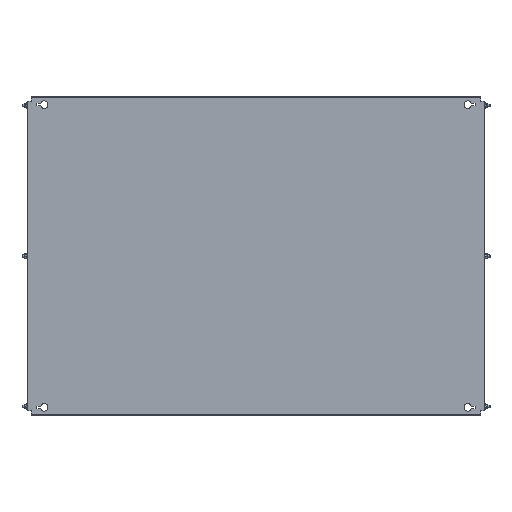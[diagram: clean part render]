
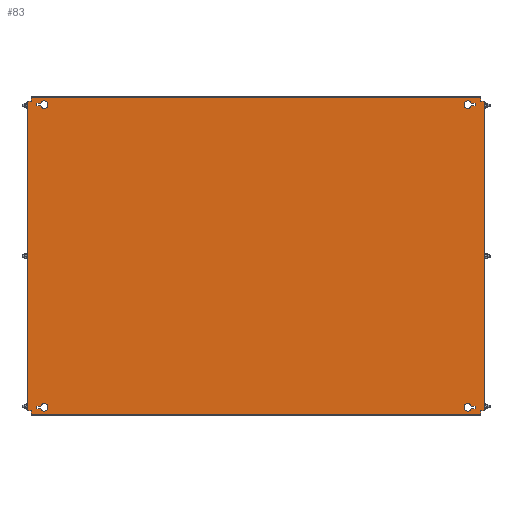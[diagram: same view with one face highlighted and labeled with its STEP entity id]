
A CAD part, top view. The second image highlights one B-rep face of the part: STEP entity #83.
In plain terms, the highlighted planar face has unit normal (0, 0, 1).
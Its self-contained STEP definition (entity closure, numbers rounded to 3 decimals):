
#83 = ADVANCED_FACE('',(#84,#119,#154,#316,#351),#386,.T.);
#84 = FACE_BOUND('',#85,.T.);
#85 = EDGE_LOOP('',(#86,#96,#104,#112));
#86 = ORIENTED_EDGE('',*,*,#87,.T.);
#87 = EDGE_CURVE('',#88,#90,#92,.T.);
#88 = VERTEX_POINT('',#89);
#89 = CARTESIAN_POINT('',(518.393,367.75,2.5));
#90 = VERTEX_POINT('',#91);
#91 = CARTESIAN_POINT('',(528.,367.75,2.5));
#92 = LINE('',#93,#94);
#93 = CARTESIAN_POINT('',(527.,367.75,2.5));
#94 = VECTOR('',#95,1.);
#95 = DIRECTION('',(1.,0.,0.));
#96 = ORIENTED_EDGE('',*,*,#97,.T.);
#97 = EDGE_CURVE('',#90,#98,#100,.T.);
#98 = VERTEX_POINT('',#99);
#99 = CARTESIAN_POINT('',(528.,361.25,2.5));
#100 = LINE('',#101,#102);
#101 = CARTESIAN_POINT('',(528.,367.75,2.5));
#102 = VECTOR('',#103,1.);
#103 = DIRECTION('',(0.,-1.,0.));
#104 = ORIENTED_EDGE('',*,*,#105,.T.);
#105 = EDGE_CURVE('',#98,#106,#108,.T.);
#106 = VERTEX_POINT('',#107);
#107 = CARTESIAN_POINT('',(518.393,361.25,2.5));
#108 = LINE('',#109,#110);
#109 = CARTESIAN_POINT('',(527.,361.25,2.5));
#110 = VECTOR('',#111,1.);
#111 = DIRECTION('',(-1.,0.,0.));
#112 = ORIENTED_EDGE('',*,*,#113,.T.);
#113 = EDGE_CURVE('',#106,#88,#114,.T.);
#114 = CIRCLE('',#115,9.);
#115 = AXIS2_PLACEMENT_3D('',#116,#117,#118);
#116 = CARTESIAN_POINT('',(510.,364.5,2.5));
#117 = DIRECTION('',(0.,0.,-1.));
#118 = DIRECTION('',(1.,0.,0.));
#119 = FACE_BOUND('',#120,.T.);
#120 = EDGE_LOOP('',(#121,#131,#139,#147));
#121 = ORIENTED_EDGE('',*,*,#122,.T.);
#122 = EDGE_CURVE('',#123,#125,#127,.T.);
#123 = VERTEX_POINT('',#124);
#124 = CARTESIAN_POINT('',(-518.393,-367.75,2.5));
#125 = VERTEX_POINT('',#126);
#126 = CARTESIAN_POINT('',(-528.,-367.75,2.5));
#127 = LINE('',#128,#129);
#128 = CARTESIAN_POINT('',(-527.,-367.75,2.5));
#129 = VECTOR('',#130,1.);
#130 = DIRECTION('',(-1.,0.,0.));
#131 = ORIENTED_EDGE('',*,*,#132,.T.);
#132 = EDGE_CURVE('',#125,#133,#135,.T.);
#133 = VERTEX_POINT('',#134);
#134 = CARTESIAN_POINT('',(-528.,-361.25,2.5));
#135 = LINE('',#136,#137);
#136 = CARTESIAN_POINT('',(-528.,-367.75,2.5));
#137 = VECTOR('',#138,1.);
#138 = DIRECTION('',(0.,1.,0.));
#139 = ORIENTED_EDGE('',*,*,#140,.T.);
#140 = EDGE_CURVE('',#133,#141,#143,.T.);
#141 = VERTEX_POINT('',#142);
#142 = CARTESIAN_POINT('',(-518.393,-361.25,2.5));
#143 = LINE('',#144,#145);
#144 = CARTESIAN_POINT('',(-527.,-361.25,2.5));
#145 = VECTOR('',#146,1.);
#146 = DIRECTION('',(1.,-0.,-0.));
#147 = ORIENTED_EDGE('',*,*,#148,.T.);
#148 = EDGE_CURVE('',#141,#123,#149,.T.);
#149 = CIRCLE('',#150,9.);
#150 = AXIS2_PLACEMENT_3D('',#151,#152,#153);
#151 = CARTESIAN_POINT('',(-510.,-364.5,2.5));
#152 = DIRECTION('',(0.,0.,-1.));
#153 = DIRECTION('',(-1.,0.,0.));
#154 = FACE_BOUND('',#155,.T.);
#155 = EDGE_LOOP('',(#156,#166,#174,#182,#190,#198,#206,#214,#222,#230,
    #238,#246,#254,#262,#270,#278,#286,#294,#302,#310));
#156 = ORIENTED_EDGE('',*,*,#157,.F.);
#157 = EDGE_CURVE('',#158,#160,#162,.T.);
#158 = VERTEX_POINT('',#159);
#159 = CARTESIAN_POINT('',(-546.9,372.5,2.5));
#160 = VERTEX_POINT('',#161);
#161 = CARTESIAN_POINT('',(-541.5,372.5,2.5));
#162 = LINE('',#163,#164);
#163 = CARTESIAN_POINT('',(-547.5,372.5,2.5));
#164 = VECTOR('',#165,1.);
#165 = DIRECTION('',(1.,0.,-0.));
#166 = ORIENTED_EDGE('',*,*,#167,.T.);
#167 = EDGE_CURVE('',#158,#168,#170,.T.);
#168 = VERTEX_POINT('',#169);
#169 = CARTESIAN_POINT('',(-550.,372.5,2.5));
#170 = LINE('',#171,#172);
#171 = CARTESIAN_POINT('',(-546.9,372.5,2.5));
#172 = VECTOR('',#173,1.);
#173 = DIRECTION('',(-1.,0.,0.));
#174 = ORIENTED_EDGE('',*,*,#175,.F.);
#175 = EDGE_CURVE('',#176,#168,#178,.T.);
#176 = VERTEX_POINT('',#177);
#177 = CARTESIAN_POINT('',(-550.,-372.5,2.5));
#178 = LINE('',#179,#180);
#179 = CARTESIAN_POINT('',(-550.,-382.,2.5));
#180 = VECTOR('',#181,1.);
#181 = DIRECTION('',(0.,1.,-0.));
#182 = ORIENTED_EDGE('',*,*,#183,.F.);
#183 = EDGE_CURVE('',#184,#176,#186,.T.);
#184 = VERTEX_POINT('',#185);
#185 = CARTESIAN_POINT('',(-546.9,-372.5,2.5));
#186 = LINE('',#187,#188);
#187 = CARTESIAN_POINT('',(-541.5,-372.5,2.5));
#188 = VECTOR('',#189,1.);
#189 = DIRECTION('',(-1.,-0.,-0.));
#190 = ORIENTED_EDGE('',*,*,#191,.T.);
#191 = EDGE_CURVE('',#184,#192,#194,.T.);
#192 = VERTEX_POINT('',#193);
#193 = CARTESIAN_POINT('',(-541.5,-372.5,2.5));
#194 = LINE('',#195,#196);
#195 = CARTESIAN_POINT('',(-547.5,-372.5,2.5));
#196 = VECTOR('',#197,1.);
#197 = DIRECTION('',(1.,0.,-0.));
#198 = ORIENTED_EDGE('',*,*,#199,.T.);
#199 = EDGE_CURVE('',#192,#200,#202,.T.);
#200 = VERTEX_POINT('',#201);
#201 = CARTESIAN_POINT('',(-541.5,-381.4,2.5));
#202 = LINE('',#203,#204);
#203 = CARTESIAN_POINT('',(-541.5,382.,2.5));
#204 = VECTOR('',#205,1.);
#205 = DIRECTION('',(0.,-1.,0.));
#206 = ORIENTED_EDGE('',*,*,#207,.T.);
#207 = EDGE_CURVE('',#200,#208,#210,.T.);
#208 = VERTEX_POINT('',#209);
#209 = CARTESIAN_POINT('',(-541.5,-382.,2.5));
#210 = LINE('',#211,#212);
#211 = CARTESIAN_POINT('',(-541.5,-381.4,2.5));
#212 = VECTOR('',#213,1.);
#213 = DIRECTION('',(-0.,-1.,-0.));
#214 = ORIENTED_EDGE('',*,*,#215,.T.);
#215 = EDGE_CURVE('',#208,#216,#218,.T.);
#216 = VERTEX_POINT('',#217);
#217 = CARTESIAN_POINT('',(541.5,-382.,2.5));
#218 = LINE('',#219,#220);
#219 = CARTESIAN_POINT('',(541.5,-382.,2.5));
#220 = VECTOR('',#221,1.);
#221 = DIRECTION('',(1.,0.,0.));
#222 = ORIENTED_EDGE('',*,*,#223,.F.);
#223 = EDGE_CURVE('',#224,#216,#226,.T.);
#224 = VERTEX_POINT('',#225);
#225 = CARTESIAN_POINT('',(541.5,-381.4,2.5));
#226 = LINE('',#227,#228);
#227 = CARTESIAN_POINT('',(541.5,-382.,2.5));
#228 = VECTOR('',#229,1.);
#229 = DIRECTION('',(0.,-1.,0.));
#230 = ORIENTED_EDGE('',*,*,#231,.T.);
#231 = EDGE_CURVE('',#224,#232,#234,.T.);
#232 = VERTEX_POINT('',#233);
#233 = CARTESIAN_POINT('',(541.5,-372.5,2.5));
#234 = LINE('',#235,#236);
#235 = CARTESIAN_POINT('',(541.5,382.,2.5));
#236 = VECTOR('',#237,1.);
#237 = DIRECTION('',(0.,1.,-0.));
#238 = ORIENTED_EDGE('',*,*,#239,.F.);
#239 = EDGE_CURVE('',#240,#232,#242,.T.);
#240 = VERTEX_POINT('',#241);
#241 = CARTESIAN_POINT('',(546.9,-372.5,2.5));
#242 = LINE('',#243,#244);
#243 = CARTESIAN_POINT('',(547.5,-372.5,2.5));
#244 = VECTOR('',#245,1.);
#245 = DIRECTION('',(-1.,0.,-0.));
#246 = ORIENTED_EDGE('',*,*,#247,.T.);
#247 = EDGE_CURVE('',#240,#248,#250,.T.);
#248 = VERTEX_POINT('',#249);
#249 = CARTESIAN_POINT('',(550.,-372.5,2.5));
#250 = LINE('',#251,#252);
#251 = CARTESIAN_POINT('',(546.9,-372.5,2.5));
#252 = VECTOR('',#253,1.);
#253 = DIRECTION('',(1.,-0.,0.));
#254 = ORIENTED_EDGE('',*,*,#255,.F.);
#255 = EDGE_CURVE('',#256,#248,#258,.T.);
#256 = VERTEX_POINT('',#257);
#257 = CARTESIAN_POINT('',(550.,372.5,2.5));
#258 = LINE('',#259,#260);
#259 = CARTESIAN_POINT('',(550.,-382.,2.5));
#260 = VECTOR('',#261,1.);
#261 = DIRECTION('',(0.,-1.,-0.));
#262 = ORIENTED_EDGE('',*,*,#263,.F.);
#263 = EDGE_CURVE('',#264,#256,#266,.T.);
#264 = VERTEX_POINT('',#265);
#265 = CARTESIAN_POINT('',(546.9,372.5,2.5));
#266 = LINE('',#267,#268);
#267 = CARTESIAN_POINT('',(-541.5,372.5,2.5));
#268 = VECTOR('',#269,1.);
#269 = DIRECTION('',(1.,-0.,0.));
#270 = ORIENTED_EDGE('',*,*,#271,.T.);
#271 = EDGE_CURVE('',#264,#272,#274,.T.);
#272 = VERTEX_POINT('',#273);
#273 = CARTESIAN_POINT('',(541.5,372.5,2.5));
#274 = LINE('',#275,#276);
#275 = CARTESIAN_POINT('',(547.5,372.5,2.5));
#276 = VECTOR('',#277,1.);
#277 = DIRECTION('',(-1.,0.,-0.));
#278 = ORIENTED_EDGE('',*,*,#279,.T.);
#279 = EDGE_CURVE('',#272,#280,#282,.T.);
#280 = VERTEX_POINT('',#281);
#281 = CARTESIAN_POINT('',(541.5,381.4,2.5));
#282 = LINE('',#283,#284);
#283 = CARTESIAN_POINT('',(541.5,382.,2.5));
#284 = VECTOR('',#285,1.);
#285 = DIRECTION('',(0.,1.,-0.));
#286 = ORIENTED_EDGE('',*,*,#287,.T.);
#287 = EDGE_CURVE('',#280,#288,#290,.T.);
#288 = VERTEX_POINT('',#289);
#289 = CARTESIAN_POINT('',(541.5,382.,2.5));
#290 = LINE('',#291,#292);
#291 = CARTESIAN_POINT('',(541.5,381.4,2.5));
#292 = VECTOR('',#293,1.);
#293 = DIRECTION('',(-0.,1.,-0.));
#294 = ORIENTED_EDGE('',*,*,#295,.T.);
#295 = EDGE_CURVE('',#288,#296,#298,.T.);
#296 = VERTEX_POINT('',#297);
#297 = CARTESIAN_POINT('',(-541.5,382.,2.5));
#298 = LINE('',#299,#300);
#299 = CARTESIAN_POINT('',(-541.5,382.,2.5));
#300 = VECTOR('',#301,1.);
#301 = DIRECTION('',(-1.,0.,0.));
#302 = ORIENTED_EDGE('',*,*,#303,.F.);
#303 = EDGE_CURVE('',#304,#296,#306,.T.);
#304 = VERTEX_POINT('',#305);
#305 = CARTESIAN_POINT('',(-541.5,381.4,2.5));
#306 = LINE('',#307,#308);
#307 = CARTESIAN_POINT('',(-541.5,-382.,2.5));
#308 = VECTOR('',#309,1.);
#309 = DIRECTION('',(0.,1.,-0.));
#310 = ORIENTED_EDGE('',*,*,#311,.T.);
#311 = EDGE_CURVE('',#304,#160,#312,.T.);
#312 = LINE('',#313,#314);
#313 = CARTESIAN_POINT('',(-541.5,382.,2.5));
#314 = VECTOR('',#315,1.);
#315 = DIRECTION('',(0.,-1.,0.));
#316 = FACE_BOUND('',#317,.T.);
#317 = EDGE_LOOP('',(#318,#328,#336,#344));
#318 = ORIENTED_EDGE('',*,*,#319,.F.);
#319 = EDGE_CURVE('',#320,#322,#324,.T.);
#320 = VERTEX_POINT('',#321);
#321 = CARTESIAN_POINT('',(528.,-361.25,2.5));
#322 = VERTEX_POINT('',#323);
#323 = CARTESIAN_POINT('',(518.393,-361.25,2.5));
#324 = LINE('',#325,#326);
#325 = CARTESIAN_POINT('',(518.393,-361.25,2.5));
#326 = VECTOR('',#327,1.);
#327 = DIRECTION('',(-1.,0.,0.));
#328 = ORIENTED_EDGE('',*,*,#329,.F.);
#329 = EDGE_CURVE('',#330,#320,#332,.T.);
#330 = VERTEX_POINT('',#331);
#331 = CARTESIAN_POINT('',(528.,-367.75,2.5));
#332 = LINE('',#333,#334);
#333 = CARTESIAN_POINT('',(528.,-361.25,2.5));
#334 = VECTOR('',#335,1.);
#335 = DIRECTION('',(0.,1.,0.));
#336 = ORIENTED_EDGE('',*,*,#337,.F.);
#337 = EDGE_CURVE('',#338,#330,#340,.T.);
#338 = VERTEX_POINT('',#339);
#339 = CARTESIAN_POINT('',(518.393,-367.75,2.5));
#340 = LINE('',#341,#342);
#341 = CARTESIAN_POINT('',(527.,-367.75,2.5));
#342 = VECTOR('',#343,1.);
#343 = DIRECTION('',(1.,0.,0.));
#344 = ORIENTED_EDGE('',*,*,#345,.F.);
#345 = EDGE_CURVE('',#322,#338,#346,.T.);
#346 = CIRCLE('',#347,9.);
#347 = AXIS2_PLACEMENT_3D('',#348,#349,#350);
#348 = CARTESIAN_POINT('',(510.,-364.5,2.5));
#349 = DIRECTION('',(0.,-0.,1.));
#350 = DIRECTION('',(1.,0.,0.));
#351 = FACE_BOUND('',#352,.T.);
#352 = EDGE_LOOP('',(#353,#363,#371,#379));
#353 = ORIENTED_EDGE('',*,*,#354,.F.);
#354 = EDGE_CURVE('',#355,#357,#359,.T.);
#355 = VERTEX_POINT('',#356);
#356 = CARTESIAN_POINT('',(-528.,361.25,2.5));
#357 = VERTEX_POINT('',#358);
#358 = CARTESIAN_POINT('',(-518.393,361.25,2.5));
#359 = LINE('',#360,#361);
#360 = CARTESIAN_POINT('',(-518.393,361.25,2.5));
#361 = VECTOR('',#362,1.);
#362 = DIRECTION('',(1.,0.,0.));
#363 = ORIENTED_EDGE('',*,*,#364,.F.);
#364 = EDGE_CURVE('',#365,#355,#367,.T.);
#365 = VERTEX_POINT('',#366);
#366 = CARTESIAN_POINT('',(-528.,367.75,2.5));
#367 = LINE('',#368,#369);
#368 = CARTESIAN_POINT('',(-528.,361.25,2.5));
#369 = VECTOR('',#370,1.);
#370 = DIRECTION('',(0.,-1.,0.));
#371 = ORIENTED_EDGE('',*,*,#372,.F.);
#372 = EDGE_CURVE('',#373,#365,#375,.T.);
#373 = VERTEX_POINT('',#374);
#374 = CARTESIAN_POINT('',(-518.393,367.75,2.5));
#375 = LINE('',#376,#377);
#376 = CARTESIAN_POINT('',(-527.,367.75,2.5));
#377 = VECTOR('',#378,1.);
#378 = DIRECTION('',(-1.,0.,0.));
#379 = ORIENTED_EDGE('',*,*,#380,.F.);
#380 = EDGE_CURVE('',#357,#373,#381,.T.);
#381 = CIRCLE('',#382,9.);
#382 = AXIS2_PLACEMENT_3D('',#383,#384,#385);
#383 = CARTESIAN_POINT('',(-510.,364.5,2.5));
#384 = DIRECTION('',(0.,-0.,1.));
#385 = DIRECTION('',(-1.,0.,0.));
#386 = PLANE('',#387);
#387 = AXIS2_PLACEMENT_3D('',#388,#389,#390);
#388 = CARTESIAN_POINT('',(-541.5,-382.,2.5));
#389 = DIRECTION('',(-0.,0.,1.));
#390 = DIRECTION('',(1.,0.,0.));
